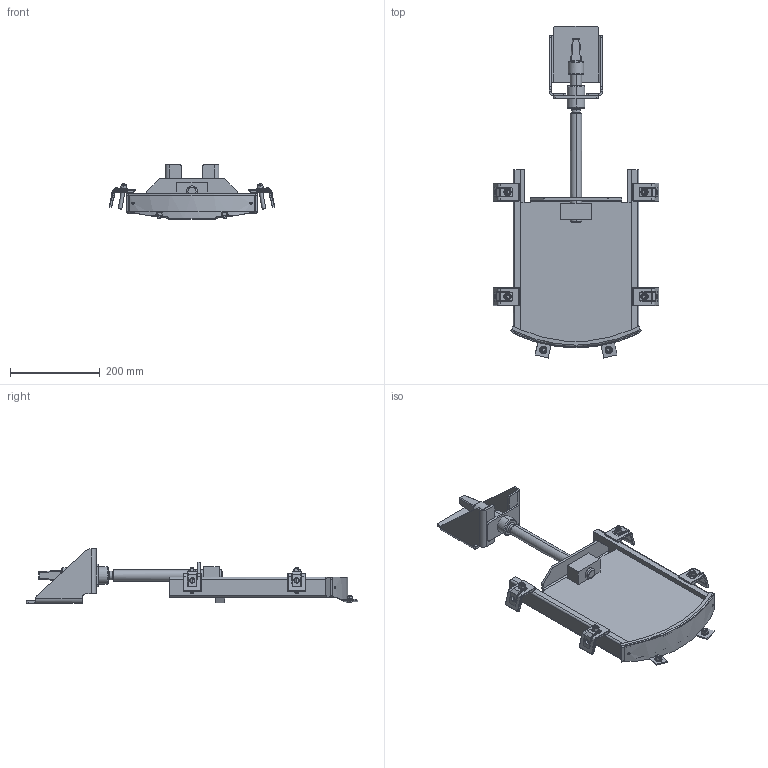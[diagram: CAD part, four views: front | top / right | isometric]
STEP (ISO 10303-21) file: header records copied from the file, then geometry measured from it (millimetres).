
FILE_DESCRIPTION (( 'STEP AP214' ), '1' );
FILE_NAME ('LW 200 Schacht1200 geschr..STEP', '2022-05-19T11:26:35', ( '' ), ( '' ), 'SwSTEP 2.0', 'SolidWorks 2021', '' );
FILE_SCHEMA (( 'AUTOMOTIVE_DESIGN' ));
Length unit declared in the file: millimetre
Products named in the file (1): LW 200 Schacht1200 geschr.
Bounding box: 369.47 x 739.69 x 121 mm (x, y, z)
Volume: 1920922 mm3; surface area: 547030.7 mm2
Topology: 1 solids, 5 shells, 886 faces, 2079 edges, 1186 vertices
Faces by surface type: cylinder 325, plane 284, cone 90, bspline 71, sphere 60, torus 56
Entity records: 37930 total; most frequent: CARTESIAN_POINT 8834, DIRECTION 4077, ORIENTED_EDGE 4038, EDGE_CURVE 2019, AXIS2_PLACEMENT_3D 1615, VERTEX_POINT 1178, EDGE_LOOP 949, UNCERTAINTY_MEASURE_WITH_UNIT 886
